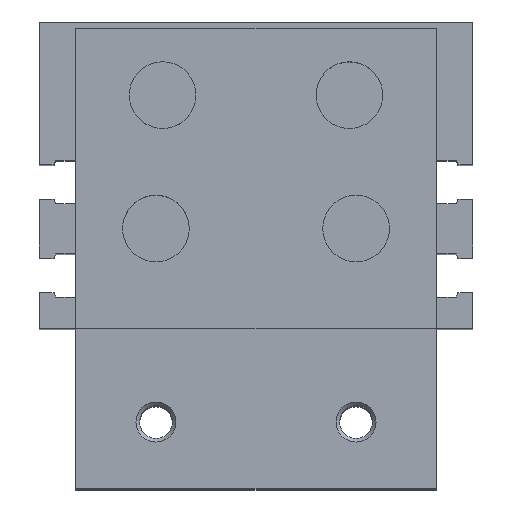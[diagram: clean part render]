
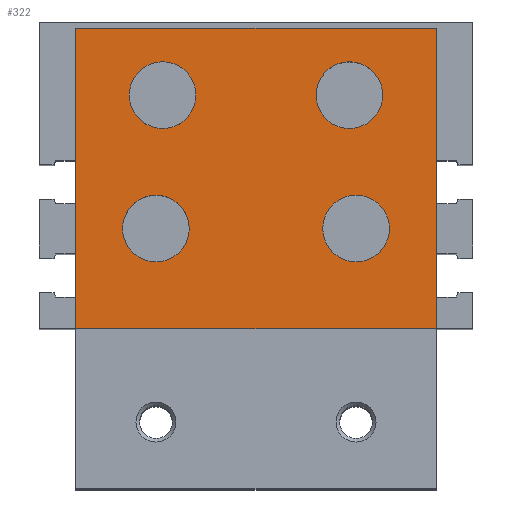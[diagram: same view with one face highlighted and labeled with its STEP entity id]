
A CAD part, top view. The second image highlights one B-rep face of the part: STEP entity #322.
In plain terms, the highlighted planar face has unit normal (0, 0, 1).
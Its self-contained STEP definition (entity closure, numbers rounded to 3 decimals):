
#322 = ADVANCED_FACE( '', ( #693, #694, #695, #696, #697 ), #698, .F. );
#693 = FACE_BOUND( '', #1119, .T. );
#694 = FACE_BOUND( '', #1120, .T. );
#695 = FACE_OUTER_BOUND( '', #1121, .T. );
#696 = FACE_BOUND( '', #1122, .T. );
#697 = FACE_BOUND( '', #1123, .T. );
#698 = PLANE( '', #1124 );
#1119 = EDGE_LOOP( '', ( #1879 ) );
#1120 = EDGE_LOOP( '', ( #1880 ) );
#1121 = EDGE_LOOP( '', ( #1881, #1882, #1883, #1884 ) );
#1122 = EDGE_LOOP( '', ( #1885 ) );
#1123 = EDGE_LOOP( '', ( #1886 ) );
#1124 = AXIS2_PLACEMENT_3D( '', #1887, #1888, #1889 );
#1879 = ORIENTED_EDGE( '', *, *, #2475, .F. );
#1880 = ORIENTED_EDGE( '', *, *, #2253, .F. );
#1881 = ORIENTED_EDGE( '', *, *, #2476, .T. );
#1882 = ORIENTED_EDGE( '', *, *, #2288, .F. );
#1883 = ORIENTED_EDGE( '', *, *, #2477, .F. );
#1884 = ORIENTED_EDGE( '', *, *, #2265, .T. );
#1885 = ORIENTED_EDGE( '', *, *, #2356, .F. );
#1886 = ORIENTED_EDGE( '', *, *, #2459, .F. );
#1887 = CARTESIAN_POINT( '', ( 54., 45., 0. ) );
#1888 = DIRECTION( '', ( 0., 0., -1. ) );
#1889 = DIRECTION( '', ( -1., 0., 0. ) );
#2253 = EDGE_CURVE( '', #2644, #2644, #2645, .T. );
#2265 = EDGE_CURVE( '', #2665, #2663, #2666, .T. );
#2288 = EDGE_CURVE( '', #2703, #2698, #2705, .T. );
#2356 = EDGE_CURVE( '', #2813, #2813, #2814, .T. );
#2459 = EDGE_CURVE( '', #2958, #2958, #2959, .F. );
#2475 = EDGE_CURVE( '', #2979, #2979, #2980, .F. );
#2476 = EDGE_CURVE( '', #2663, #2698, #2981, .T. );
#2477 = EDGE_CURVE( '', #2665, #2703, #2982, .T. );
#2644 = VERTEX_POINT( '', #3184 );
#2645 = CIRCLE( '', #3185, 5. );
#2663 = VERTEX_POINT( '', #3207 );
#2665 = VERTEX_POINT( '', #3210 );
#2666 = LINE( '', #3211, #3212 );
#2698 = VERTEX_POINT( '', #3253 );
#2703 = VERTEX_POINT( '', #3260 );
#2705 = LINE( '', #3263, #3264 );
#2813 = VERTEX_POINT( '', #3401 );
#2814 = CIRCLE( '', #3402, 5. );
#2958 = VERTEX_POINT( '', #3615 );
#2959 = CIRCLE( '', #3616, 5. );
#2979 = VERTEX_POINT( '', #3640 );
#2980 = CIRCLE( '', #3641, 5. );
#2981 = LINE( '', #3642, #3643 );
#2982 = LINE( '', #3644, #3645 );
#3184 = CARTESIAN_POINT( '', ( 17., 15., 0. ) );
#3185 = AXIS2_PLACEMENT_3D( '', #3797, #3798, #3799 );
#3207 = CARTESIAN_POINT( '', ( 0., 45., 0. ) );
#3210 = CARTESIAN_POINT( '', ( 54., 45., 0. ) );
#3211 = CARTESIAN_POINT( '', ( 54., 45., 0. ) );
#3212 = VECTOR( '', #3814, 1000. );
#3253 = CARTESIAN_POINT( '', ( 0., 0., 0. ) );
#3260 = CARTESIAN_POINT( '', ( 54., 0., 0. ) );
#3263 = CARTESIAN_POINT( '', ( 54., 0., 0. ) );
#3264 = VECTOR( '', #3839, 1000. );
#3401 = CARTESIAN_POINT( '', ( 46., 35., 0. ) );
#3402 = AXIS2_PLACEMENT_3D( '', #3923, #3924, #3925 );
#3615 = CARTESIAN_POINT( '', ( 8., 35., 0. ) );
#3616 = AXIS2_PLACEMENT_3D( '', #4028, #4029, #4030 );
#3640 = CARTESIAN_POINT( '', ( 37., 15., 0. ) );
#3641 = AXIS2_PLACEMENT_3D( '', #4047, #4048, #4049 );
#3642 = CARTESIAN_POINT( '', ( 0., 45., 0. ) );
#3643 = VECTOR( '', #4050, 1000. );
#3644 = CARTESIAN_POINT( '', ( 54., 45., 0. ) );
#3645 = VECTOR( '', #4051, 1000. );
#3797 = CARTESIAN_POINT( '', ( 12., 15., 0. ) );
#3798 = DIRECTION( '', ( 0., 0., 1. ) );
#3799 = DIRECTION( '', ( 1., 0., 0. ) );
#3814 = DIRECTION( '', ( -1., 0., 0. ) );
#3839 = DIRECTION( '', ( -1., 0., 0. ) );
#3923 = CARTESIAN_POINT( '', ( 41., 35., 0. ) );
#3924 = DIRECTION( '', ( 0., 0., 1. ) );
#3925 = DIRECTION( '', ( 1., 0., 0. ) );
#4028 = CARTESIAN_POINT( '', ( 13., 35., 0. ) );
#4029 = DIRECTION( '', ( 0., 0., -1. ) );
#4030 = DIRECTION( '', ( -1., 0., 0. ) );
#4047 = CARTESIAN_POINT( '', ( 42., 15., 0. ) );
#4048 = DIRECTION( '', ( 0., 0., -1. ) );
#4049 = DIRECTION( '', ( -1., 0., 0. ) );
#4050 = DIRECTION( '', ( 0., -1., 0. ) );
#4051 = DIRECTION( '', ( 0., -1., 0. ) );
